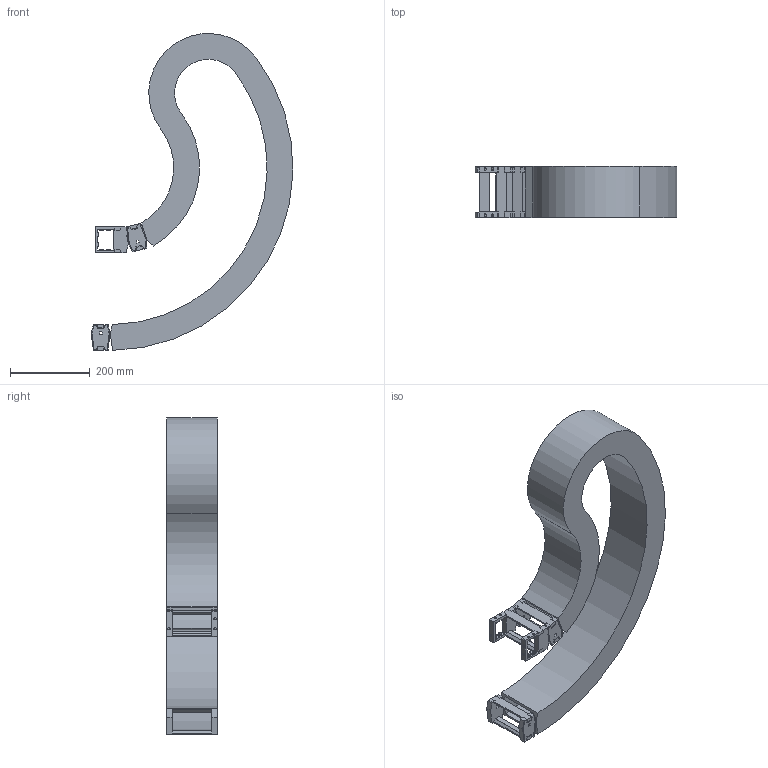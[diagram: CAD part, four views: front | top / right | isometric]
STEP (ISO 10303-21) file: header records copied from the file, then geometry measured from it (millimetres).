
FILE_DESCRIPTION( ( 'STEP AP214' ), '1' );
FILE_NAME( 'p:/temp/worker_41/temp/exporttempdir_1908_1356_PNFBa/format_1/RV048CRA12813616090300450-001002474.68352.stp', '2021-07-27T04:44:48', ( 'License CC BY-ND 4.0' ), ( 'CADENAS' ), ' ', 'PARTsolutions', ' ' );
FILE_SCHEMA( ( 'AUTOMOTIVE_DESIGN { 1 0 10303 214 1 1 1 1 }' ) );
Length unit declared in the file: millimetre
Products named in the file (4): RV048CRA12813616090300450-001002474.68352; _RV048CRA12813616090300450-001021501.283-Chain; _RV048CR-SU-48-100; _RV048CR_FB-128
Assembly tree (4 placements, depth 2):
  RV048CRA12813616090300450-001002474.68352
    _RV048CRA12813616090300450-001021501.283-Chain
    _RV048CR-SU-48-100  x2
    _RV048CR_FB-128
Bounding box: 507.79 x 128 x 796.98 mm (x, y, z)
Volume: 5137563.9 mm3; surface area: 1249214.7 mm2
Topology: 4 solids, 4 shells, 507 faces, 1482 edges, 980 vertices
Faces by surface type: plane 389, cylinder 118
Full cylindrical faces by diameter (mm): 6 x12
Entity records: 14298 total; most frequent: CARTESIAN_POINT 2024, ORIENTED_EDGE 2004, DIRECTION 1890, EDGE_CURVE 1002, LINE 822, VECTOR 822, VERTEX_POINT 668, AXIS2_PLACEMENT_3D 534
